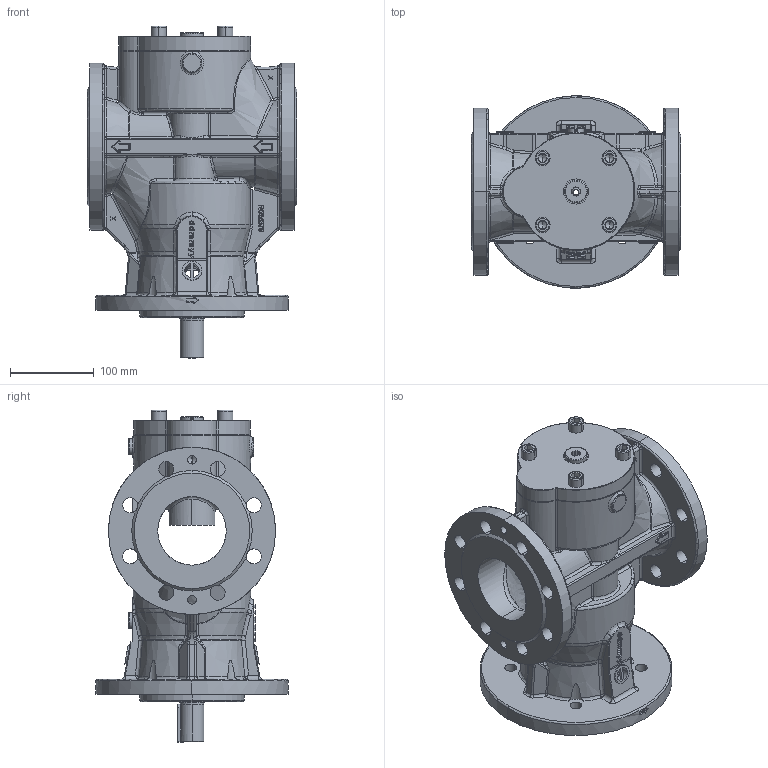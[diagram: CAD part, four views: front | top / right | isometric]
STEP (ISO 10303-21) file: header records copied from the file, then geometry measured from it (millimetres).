
FILE_DESCRIPTION (( 'STEP AP203' ), '1' );
FILE_NAME ('RFI 160 - 210.STEP', '2020-03-10T08:23:30', ( '' ), ( '' ), 'SwSTEP 2.0', 'SolidWorks 2019', '' );
FILE_SCHEMA (( 'CONFIG_CONTROL_DESIGN' ));
Products named in the file (1): RFI 160 - 210
Bounding box: 250 x 230 x 397.01 mm (x, y, z)
Surface area: 504902.2 mm2 (no closed solid volume)
Topology: 0 solids, 40 shells, 1305 faces, 5788 edges, 4361 vertices
Faces by surface type: cylinder 406, plane 374, bspline 322, torus 101, sphere 54, cone 48
Entity records: 82522 total; most frequent: CARTESIAN_POINT 40351, ORIENTED_EDGE 8449, DIRECTION 7404, EDGE_CURVE 5737, VERTEX_POINT 4360, VECTOR 2612, LINE 2612, AXIS2_PLACEMENT_3D 2396
